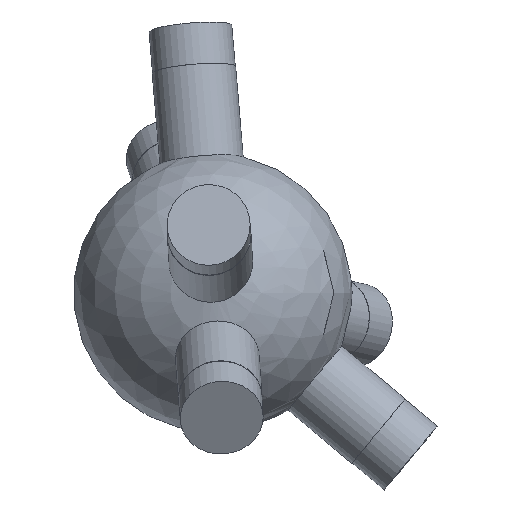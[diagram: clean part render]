
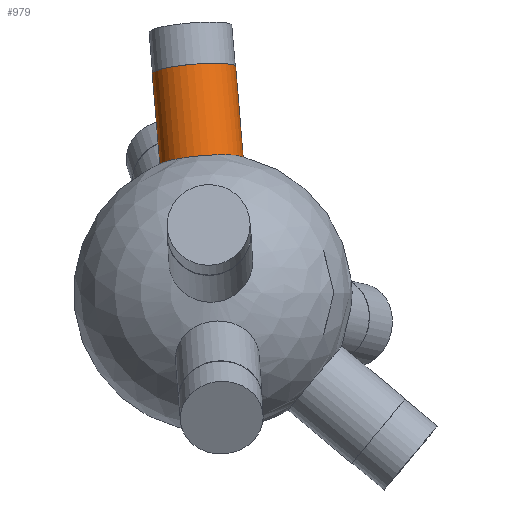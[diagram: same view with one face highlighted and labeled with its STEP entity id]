
A CAD part, top view. The second image highlights one B-rep face of the part: STEP entity #979.
In plain terms, the highlighted cylindrical face has radius 6 mm (diameter 12 mm), a full revolution.
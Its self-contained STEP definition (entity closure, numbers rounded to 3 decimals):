
#33 = SPHERICAL_SURFACE('',#34,20.);
#34 = AXIS2_PLACEMENT_3D('',#35,#36,#37);
#35 = CARTESIAN_POINT('',(0.,0.,0.));
#36 = DIRECTION('',(0.,0.,1.));
#37 = DIRECTION('',(1.,0.,-0.));
#514 = EDGE_CURVE('',#515,#515,#517,.T.);
#515 = VERTEX_POINT('',#516);
#516 = CARTESIAN_POINT('',(-1.584,19.668,
    3.265));
#517 = SURFACE_CURVE('',#518,(#523,#592),.PCURVE_S1.);
#518 = CIRCLE('',#519,6.);
#519 = AXIS2_PLACEMENT_3D('',#520,#521,#522);
#520 = CARTESIAN_POINT('',(-1.584,18.824,
    -2.675));
#521 = DIRECTION('',(-0.083,0.987,-0.14)
  );
#522 = DIRECTION('',(0.,0.141,0.99));
#523 = PCURVE('',#33,#524);
#524 = DEFINITIONAL_REPRESENTATION('',(#525),#591);
#525 = B_SPLINE_CURVE_WITH_KNOTS('',8,(#526,#527,#528,#529,#530,#531,
    #532,#533,#534,#535,#536,#537,#538,#539,#540,#541,#542,#543,#544,
    #545,#546,#547,#548,#549,#550,#551,#552,#553,#554,#555,#556,#557,
    #558,#559,#560,#561,#562,#563,#564,#565,#566,#567,#568,#569,#570,
    #571,#572,#573,#574,#575,#576,#577,#578,#579,#580,#581,#582,#583,
    #584,#585,#586,#587,#588,#589,#590),.UNSPECIFIED.,.F.,.F.,(9,7,7,7,7
    ,7,7,7,7,9),(0.,0.785,1.473,2.074,
    2.6,3.06,3.866,4.47,
    5.377,6.283),.UNSPECIFIED.);
#526 = CARTESIAN_POINT('',(1.651,0.164));
#527 = CARTESIAN_POINT('',(1.621,0.164));
#528 = CARTESIAN_POINT('',(1.591,0.16));
#529 = CARTESIAN_POINT('',(1.562,0.153));
#530 = CARTESIAN_POINT('',(1.534,0.143));
#531 = CARTESIAN_POINT('',(1.507,0.13));
#532 = CARTESIAN_POINT('',(1.482,0.113));
#533 = CARTESIAN_POINT('',(1.459,0.095));
#534 = CARTESIAN_POINT('',(1.42,0.056));
#535 = CARTESIAN_POINT('',(1.403,0.036));
#536 = CARTESIAN_POINT('',(1.389,0.014));
#537 = CARTESIAN_POINT('',(1.376,-0.009));
#538 = CARTESIAN_POINT('',(1.366,-0.033));
#539 = CARTESIAN_POINT('',(1.358,-0.058));
#540 = CARTESIAN_POINT('',(1.353,-0.083));
#541 = CARTESIAN_POINT('',(1.347,-0.131));
#542 = CARTESIAN_POINT('',(1.346,-0.153));
#543 = CARTESIAN_POINT('',(1.346,-0.176));
#544 = CARTESIAN_POINT('',(1.349,-0.199));
#545 = CARTESIAN_POINT('',(1.354,-0.221));
#546 = CARTESIAN_POINT('',(1.36,-0.243));
#547 = CARTESIAN_POINT('',(1.369,-0.264));
#548 = CARTESIAN_POINT('',(1.388,-0.302));
#549 = CARTESIAN_POINT('',(1.399,-0.319));
#550 = CARTESIAN_POINT('',(1.411,-0.335));
#551 = CARTESIAN_POINT('',(1.424,-0.35));
#552 = CARTESIAN_POINT('',(1.439,-0.365));
#553 = CARTESIAN_POINT('',(1.454,-0.378));
#554 = CARTESIAN_POINT('',(1.471,-0.39));
#555 = CARTESIAN_POINT('',(1.505,-0.41));
#556 = CARTESIAN_POINT('',(1.522,-0.418));
#557 = CARTESIAN_POINT('',(1.539,-0.426));
#558 = CARTESIAN_POINT('',(1.557,-0.432));
#559 = CARTESIAN_POINT('',(1.575,-0.437));
#560 = CARTESIAN_POINT('',(1.594,-0.441));
#561 = CARTESIAN_POINT('',(1.613,-0.443));
#562 = CARTESIAN_POINT('',(1.665,-0.447));
#563 = CARTESIAN_POINT('',(1.699,-0.445));
#564 = CARTESIAN_POINT('',(1.732,-0.44));
#565 = CARTESIAN_POINT('',(1.765,-0.431));
#566 = CARTESIAN_POINT('',(1.795,-0.418));
#567 = CARTESIAN_POINT('',(1.823,-0.402));
#568 = CARTESIAN_POINT('',(1.849,-0.383));
#569 = CARTESIAN_POINT('',(1.889,-0.346));
#570 = CARTESIAN_POINT('',(1.904,-0.328));
#571 = CARTESIAN_POINT('',(1.918,-0.309));
#572 = CARTESIAN_POINT('',(1.93,-0.289));
#573 = CARTESIAN_POINT('',(1.94,-0.269));
#574 = CARTESIAN_POINT('',(1.947,-0.247));
#575 = CARTESIAN_POINT('',(1.953,-0.225));
#576 = CARTESIAN_POINT('',(1.964,-0.169));
#577 = CARTESIAN_POINT('',(1.966,-0.135));
#578 = CARTESIAN_POINT('',(1.963,-0.101));
#579 = CARTESIAN_POINT('',(1.956,-0.067));
#580 = CARTESIAN_POINT('',(1.946,-0.034));
#581 = CARTESIAN_POINT('',(1.931,-0.003));
#582 = CARTESIAN_POINT('',(1.913,0.026));
#583 = CARTESIAN_POINT('',(1.87,0.078));
#584 = CARTESIAN_POINT('',(1.845,0.102));
#585 = CARTESIAN_POINT('',(1.817,0.122));
#586 = CARTESIAN_POINT('',(1.786,0.139));
#587 = CARTESIAN_POINT('',(1.754,0.152));
#588 = CARTESIAN_POINT('',(1.72,0.16));
#589 = CARTESIAN_POINT('',(1.686,0.164));
#590 = CARTESIAN_POINT('',(1.651,0.164));
#591 = ( GEOMETRIC_REPRESENTATION_CONTEXT(2) 
PARAMETRIC_REPRESENTATION_CONTEXT() REPRESENTATION_CONTEXT('2D SPACE',''
  ) );
#592 = PCURVE('',#593,#598);
#593 = CYLINDRICAL_SURFACE('',#594,6.);
#594 = AXIS2_PLACEMENT_3D('',#595,#596,#597);
#595 = CARTESIAN_POINT('',(0.,0.,0.));
#596 = DIRECTION('',(-0.083,0.987,-0.14)
  );
#597 = DIRECTION('',(0.,0.141,0.99));
#598 = DEFINITIONAL_REPRESENTATION('',(#599),#603);
#599 = LINE('',#600,#601);
#600 = CARTESIAN_POINT('',(0.,19.079));
#601 = VECTOR('',#602,1.);
#602 = DIRECTION('',(1.,0.));
#603 = ( GEOMETRIC_REPRESENTATION_CONTEXT(2) 
PARAMETRIC_REPRESENTATION_CONTEXT() REPRESENTATION_CONTEXT('2D SPACE',''
  ) );
#979 = ADVANCED_FACE('',(#980),#593,.T.);
#980 = FACE_BOUND('',#981,.T.);
#981 = EDGE_LOOP('',(#982,#1005,#1032,#1033));
#982 = ORIENTED_EDGE('',*,*,#983,.T.);
#983 = EDGE_CURVE('',#515,#984,#986,.T.);
#984 = VERTEX_POINT('',#985);
#985 = CARTESIAN_POINT('',(-2.688,32.79,
    1.4));
#986 = SEAM_CURVE('',#987,(#991,#998),.PCURVE_S1.);
#987 = LINE('',#988,#989);
#988 = CARTESIAN_POINT('',(0.,0.844,
    5.94));
#989 = VECTOR('',#990,1.);
#990 = DIRECTION('',(-0.083,0.987,-0.14)
  );
#991 = PCURVE('',#593,#992);
#992 = DEFINITIONAL_REPRESENTATION('',(#993),#997);
#993 = LINE('',#994,#995);
#994 = CARTESIAN_POINT('',(6.283,-0.));
#995 = VECTOR('',#996,1.);
#996 = DIRECTION('',(0.,1.));
#997 = ( GEOMETRIC_REPRESENTATION_CONTEXT(2) 
PARAMETRIC_REPRESENTATION_CONTEXT() REPRESENTATION_CONTEXT('2D SPACE',''
  ) );
#998 = PCURVE('',#593,#999);
#999 = DEFINITIONAL_REPRESENTATION('',(#1000),#1004);
#1000 = LINE('',#1001,#1002);
#1001 = CARTESIAN_POINT('',(0.,-0.));
#1002 = VECTOR('',#1003,1.);
#1003 = DIRECTION('',(0.,1.));
#1004 = ( GEOMETRIC_REPRESENTATION_CONTEXT(2) 
PARAMETRIC_REPRESENTATION_CONTEXT() REPRESENTATION_CONTEXT('2D SPACE',''
  ) );
#1005 = ORIENTED_EDGE('',*,*,#1006,.F.);
#1006 = EDGE_CURVE('',#984,#984,#1007,.T.);
#1007 = SURFACE_CURVE('',#1008,(#1013,#1020),.PCURVE_S1.);
#1008 = CIRCLE('',#1009,6.);
#1009 = AXIS2_PLACEMENT_3D('',#1010,#1011,#1012);
#1010 = CARTESIAN_POINT('',(-2.688,31.945,
    -4.54));
#1011 = DIRECTION('',(-0.083,0.987,-0.14)
  );
#1012 = DIRECTION('',(0.,0.141,0.99));
#1013 = PCURVE('',#593,#1014);
#1014 = DEFINITIONAL_REPRESENTATION('',(#1015),#1019);
#1015 = LINE('',#1016,#1017);
#1016 = CARTESIAN_POINT('',(0.,32.378));
#1017 = VECTOR('',#1018,1.);
#1018 = DIRECTION('',(1.,0.));
#1019 = ( GEOMETRIC_REPRESENTATION_CONTEXT(2) 
PARAMETRIC_REPRESENTATION_CONTEXT() REPRESENTATION_CONTEXT('2D SPACE',''
  ) );
#1020 = PCURVE('',#1021,#1026);
#1021 = PLANE('',#1022);
#1022 = AXIS2_PLACEMENT_3D('',#1023,#1024,#1025);
#1023 = CARTESIAN_POINT('',(-2.688,31.945,
    -4.54));
#1024 = DIRECTION('',(-0.083,0.987,-0.14)
  );
#1025 = DIRECTION('',(0.,0.141,0.99));
#1026 = DEFINITIONAL_REPRESENTATION('',(#1027),#1031);
#1027 = CIRCLE('',#1028,6.);
#1028 = AXIS2_PLACEMENT_2D('',#1029,#1030);
#1029 = CARTESIAN_POINT('',(0.,0.));
#1030 = DIRECTION('',(1.,0.));
#1031 = ( GEOMETRIC_REPRESENTATION_CONTEXT(2) 
PARAMETRIC_REPRESENTATION_CONTEXT() REPRESENTATION_CONTEXT('2D SPACE',''
  ) );
#1032 = ORIENTED_EDGE('',*,*,#983,.F.);
#1033 = ORIENTED_EDGE('',*,*,#514,.T.);
